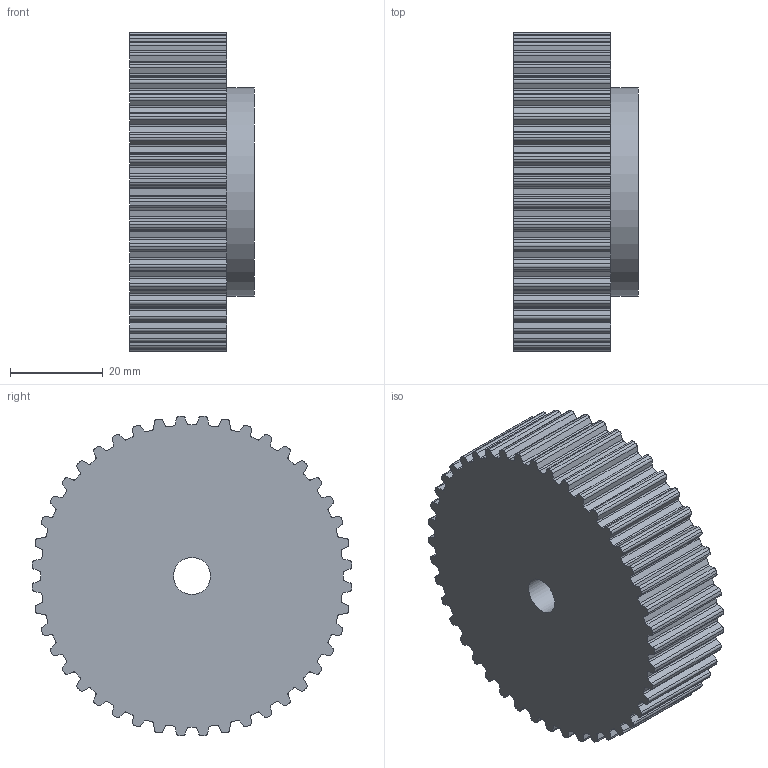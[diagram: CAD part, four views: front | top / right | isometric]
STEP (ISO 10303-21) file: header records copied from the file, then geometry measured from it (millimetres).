
FILE_DESCRIPTION( ( 'STEP AP203' ), '1' );
FILE_NAME( 'C:/Users/Stangenbergd/Documents/CAD_Step/1/16234400.stp', '2020-09-13T08:18:30', ( 'License CC BY-ND 4.0' ), ( 'CADENAS' ), ' ', 'PARTsolutions', ' ' );
FILE_SCHEMA( ( 'CONFIG_CONTROL_DESIGN' ) );
Length unit declared in the file: millimetre
Products named in the file (1): _16234400
Bounding box: 27 x 69.06 x 69.06 mm (x, y, z)
Volume: 82386.4 mm3; surface area: 15166.7 mm2
Topology: 1 solids, 1 shells, 357 faces, 1062 edges, 708 vertices
Faces by surface type: cylinder 222, plane 135
Full cylindrical faces by diameter (mm): 8 x1, 45 x1
Entity records: 12198 total; most frequent: DIRECTION 2220, CARTESIAN_POINT 2126, ORIENTED_EDGE 2120, EDGE_CURVE 1060, AXIS2_PLACEMENT_3D 802, VERTEX_POINT 708, LINE 616, VECTOR 616
